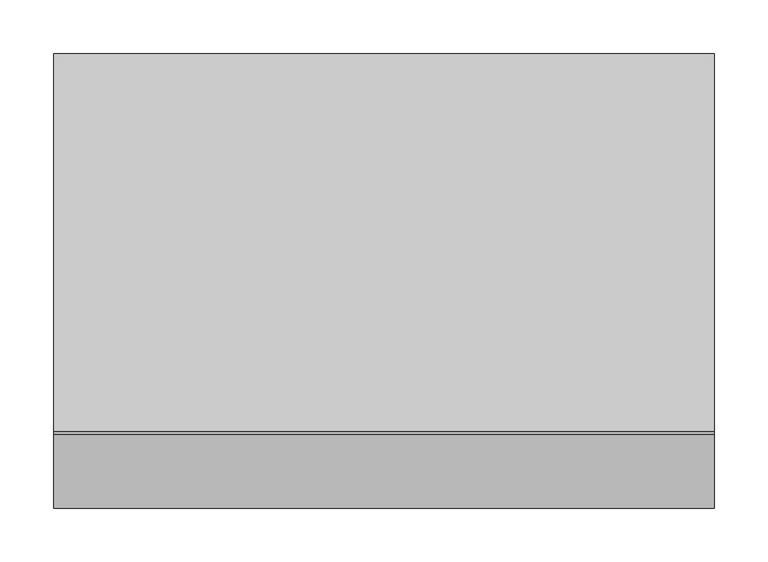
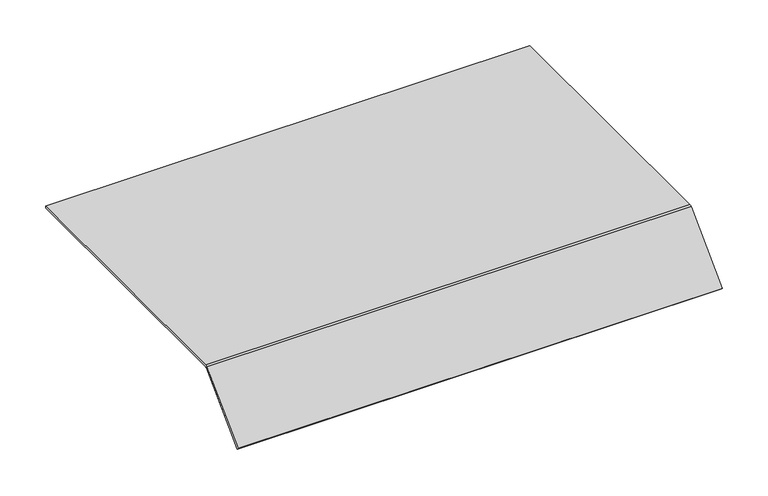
"""IFC4 building model written with IfcOpenShell, lengths in millimetres: proxy geometry, Electrical_Installation_Hager_Blank-Cover-800mm-Single-Sided-Height-70mm : Electrical_Installation_Hager_Blank-Cover-800mm-Single-Sided-Height-70mm."""

from ifc_helpers import new_model, si_unit, point, frame, frame_2d, origin, place, context, project, spatial, polyline, circle_curve, trimmed, segment, composite_curve, outline, extrude, source, transform, mapped, element, save


def electrical_fixtures_dffb07d3(model_context):
    return source(origin(), model_context, "Body", "SweptSolid", [
        extrude(outline(composite_curve([segment(polyline([(175.0, 40.5), (175.0, 37.5), (-174.8229541, 37.5)]), True, "CONTINUOUS"), segment(trimmed(circle_curve(frame_2d((-174.8229541, 36.0725733)), 1.4274267), [point((-174.8229541, 37.5))], [point((-175.8322972, 37.0819164))], True, "CARTESIAN"), True, "CONTINUOUS"), segment(polyline([(-175.8322972, 37.0819164), (-243.6627596, -30.7485461), (-245.78408, -28.6272257), (-177.8206472, 39.336207)]), True, "CONTINUOUS"), segment(trimmed(circle_curve(frame_2d((-175.0110025, 36.5265623)), 3.9734377), [point((-177.8206472, 39.336207))], [point((-175.0110025, 40.5))], False, "CARTESIAN"), True, "CONTINUOUS"), segment(polyline([(-175.0110025, 40.5), (175.0, 40.5)]), True, "CONTINUOUS")], self_intersect=False)), frame((0.0, 0.0, 0.0), z_axis=(1.0, 0.0, 0.0), x_axis=(0.0, 1.0, 0.0)), (0.0, 0.0, 1.0), 611.6956759),
    ])


if __name__ == "__main__":
    model = new_model("IFC4")
    model_context = context("Model", 3, world=origin())
    ifc_project = project(units=[si_unit("LENGTHUNIT", "METRE", prefix="MILLI")], contexts=[model_context])
    site = spatial("IfcSite", under=ifc_project)
    building = spatial("IfcBuilding", under=site)
    placement = place(None, origin())
    electrical_fixtures_shape = electrical_fixtures_dffb07d3(model_context)
    element("IfcBuildingElementProxy", 1, Name="Electrical_Installation_Hager_Blank-Cover-800mm-Single-Sided-Height-70mm : Electrical_Installation_Hager_Blank-Cover-800mm-Single-Sided-Height-70mm", ObjectType="Electrical_Installation_Hager_Blank-Cover-800mm-Single-Sided-Height-70mm : Electrical_Installation_Hager_Blank-Cover-800mm-Single-Sided-Height-70mm", at=placement, inside=building, context=model_context, shape_type="MappedRepresentation", body=[
        mapped(electrical_fixtures_shape, transform((0.0, 0.0, 0.0), x_axis=(1.0, 0.0, 0.0), y_axis=(0.0, 1.0, 0.0), z_axis=(0.0, 0.0, 1.0))),
    ])
    save(model, "model.ifc")
